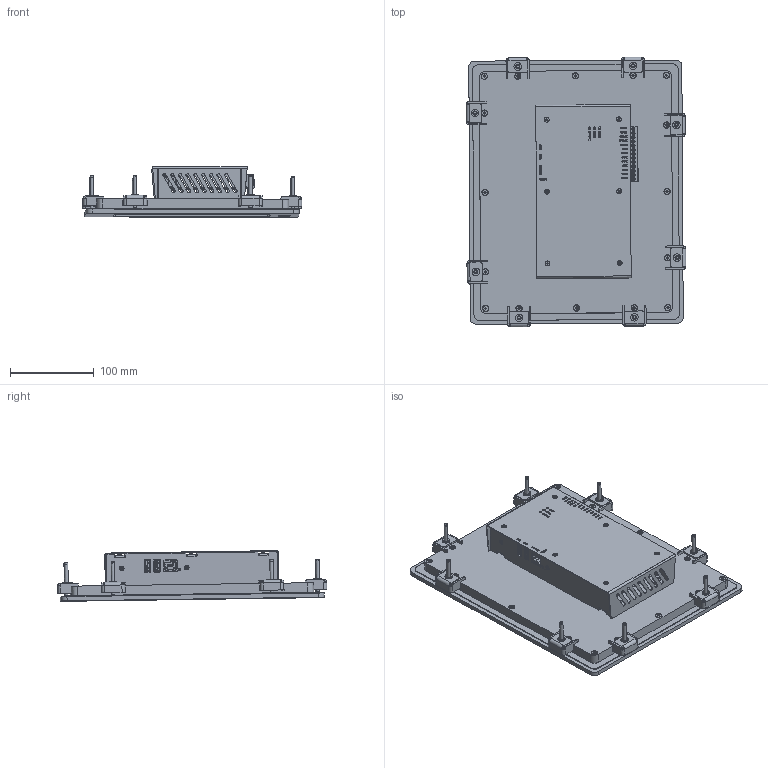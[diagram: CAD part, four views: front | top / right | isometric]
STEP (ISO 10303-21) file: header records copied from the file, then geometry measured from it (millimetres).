
FILE_DESCRIPTION(('STEP AP214'), '1');
FILE_NAME('NLcon-CED12 IP65', '', ('UNSPECIFIED'), ('UNSPECIFIED'), 'C3D Converter', 'C3D Toolkit', '');
FILE_SCHEMA(('AUTOMOTIVE_DESIGN { 1 0 10303 214 3 1 1}'));
Length unit declared in the file: millimetre
Assembly tree (14 placements, depth 3):
  (unnamed)
    (unnamed)
      (unnamed)
      (unnamed)
      (unnamed)  x2
      (unnamed)
    (unnamed)  x8
Bounding box: 263.06 x 322.93 x 60.76 mm (x, y, z)
Volume: 28214.2 mm3; surface area: 442412.5 mm2
Topology: 21 solids, 22 shells, 5582 faces, 15466 edges, 10263 vertices
Faces by surface type: plane 3923, cylinder 1121, extrusion 283, cone 140, torus 62, bspline 46, revolution 4, sphere 3
Full cylindrical faces by diameter (mm): 0.8 x15, 0.85 x4, 0.89 x8, 0.9 x24, 0.92 x8, 0.965 x7, 1 x4, 1.02 x4, 1.35 x8, 1.4 x5, 1.6 x15, 2.9 x1, 3 x29, 3.3 x2, 3.6 x1, 3.95 x14, 4 x36, 4.5 x16, 4.95 x10, 5 x8, 5.6 x6, 6 x8, 6.5 x8, 6.8 x16, 9 x8
Entity records: 226225 total; most frequent: CARTESIAN_POINT 65687, ORIENTED_EDGE 25985, DIRECTION 23182, EDGE_CURVE 12994, VECTOR 9536, LINE 9253, VERTEX_POINT 8879, AXIS2_PLACEMENT_3D 6821
